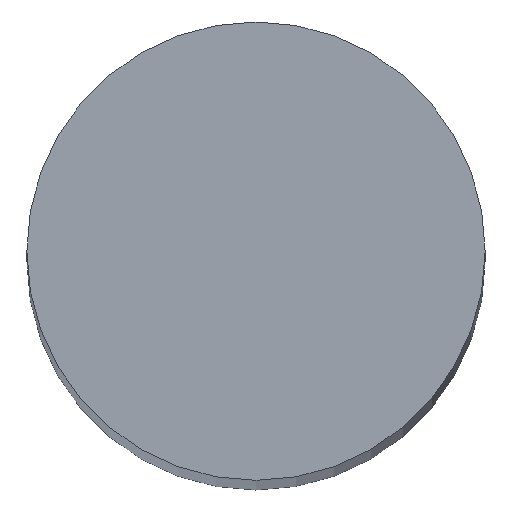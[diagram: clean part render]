
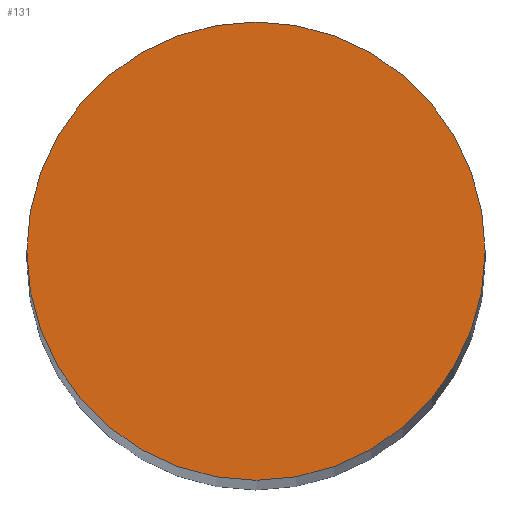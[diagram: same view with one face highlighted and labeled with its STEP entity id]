
A CAD part, top view. The second image highlights one B-rep face of the part: STEP entity #131.
In plain terms, the highlighted planar face has unit normal (0, 0, 1).
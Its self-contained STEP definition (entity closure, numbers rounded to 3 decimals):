
#3 = VERTEX_POINT ( 'NONE', #139 ) ;
#11 = CARTESIAN_POINT ( 'NONE',  ( 0., 0., 72.5 ) ) ;
#13 = DIRECTION ( 'NONE',  ( 0., 0., 1. ) ) ;
#14 = DIRECTION ( 'NONE',  ( 1., 0., 0. ) ) ;
#17 = CARTESIAN_POINT ( 'NONE',  ( 0., 0., 72.5 ) ) ;
#19 = DIRECTION ( 'NONE',  ( 0., 0., 1. ) ) ;
#20 = DIRECTION ( 'NONE',  ( 1., 0., 0. ) ) ;
#30 = CARTESIAN_POINT ( 'NONE',  ( 0., 0., 72.5 ) ) ;
#31 = PLANE ( 'NONE',  #120 ) ;
#33 = DIRECTION ( 'NONE',  ( 0., 0., 1. ) ) ;
#34 = DIRECTION ( 'NONE',  ( 1., 0., 0. ) ) ;
#36 = CARTESIAN_POINT ( 'NONE',  ( 6., 0., 72.5 ) ) ;
#67 = EDGE_LOOP ( 'NONE', ( #74, #72 ) ) ;
#72 = ORIENTED_EDGE ( 'NONE', *, *, #112, .T. ) ;
#74 = ORIENTED_EDGE ( 'NONE', *, *, #122, .T. ) ;
#90 = CIRCLE ( 'NONE', #124, 6. ) ;
#92 = FACE_OUTER_BOUND ( 'NONE', #67, .T. ) ;
#94 = CIRCLE ( 'NONE', #115, 6. ) ;
#112 = EDGE_CURVE ( 'NONE', #133, #3, #90, .T. ) ;
#115 = AXIS2_PLACEMENT_3D ( 'NONE', #17, #19, #20 ) ;
#120 = AXIS2_PLACEMENT_3D ( 'NONE', #30, #33, #34 ) ;
#122 = EDGE_CURVE ( 'NONE', #3, #133, #94, .T. ) ;
#124 = AXIS2_PLACEMENT_3D ( 'NONE', #11, #13, #14 ) ;
#131 = ADVANCED_FACE ( 'NONE', ( #92 ), #31, .T. ) ;
#133 = VERTEX_POINT ( 'NONE', #36 ) ;
#139 = CARTESIAN_POINT ( 'NONE',  ( -6., 0., 72.5 ) ) ;
